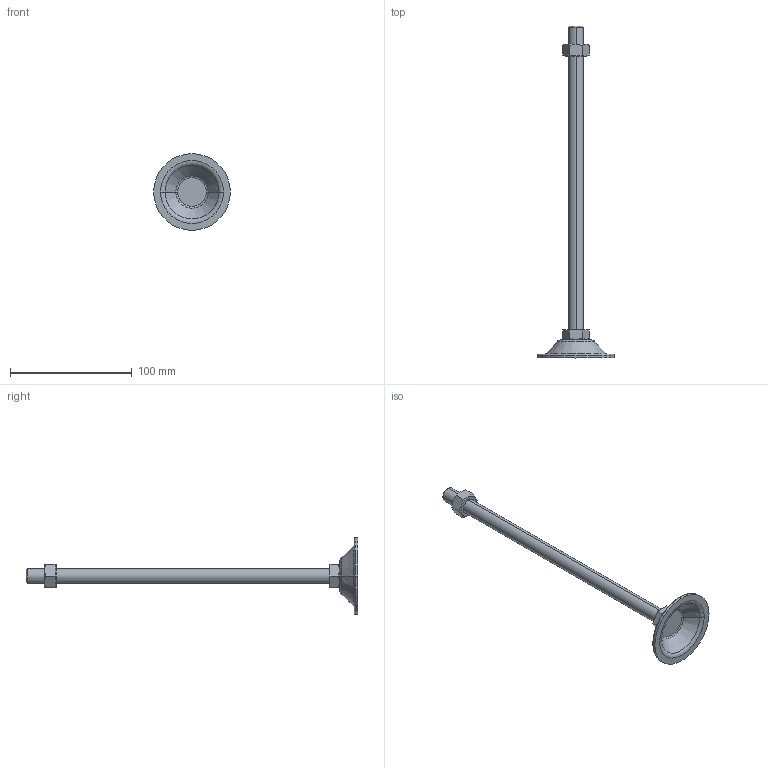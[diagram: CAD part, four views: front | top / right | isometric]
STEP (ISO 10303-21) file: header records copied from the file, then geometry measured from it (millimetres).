
FILE_DESCRIPTION (( 'STEP AP214' ), '1' );
FILE_NAME ('BL63-M12-250.step', '2021-01-06T05:38:20', ( '' ), ( '' ), 'SwSTEP 2.0', 'SolidWorks 2019', '' );
FILE_SCHEMA (( 'AUTOMOTIVE_DESIGN' ));
Length unit declared in the file: millimetre
Products named in the file (1): BL63-M12-250
Bounding box: 63 x 273 x 63 mm (x, y, z)
Volume: 43737.5 mm3; surface area: 19784.1 mm2
Topology: 3 solids, 3 shells, 53 faces, 110 edges, 66 vertices
Faces by surface type: plane 21, cone 16, torus 10, cylinder 6
Entity records: 1618 total; most frequent: CARTESIAN_POINT 428, DIRECTION 252, ORIENTED_EDGE 220, EDGE_CURVE 110, AXIS2_PLACEMENT_3D 106, VERTEX_POINT 66, EDGE_LOOP 58, FACE_OUTER_BOUND 53
